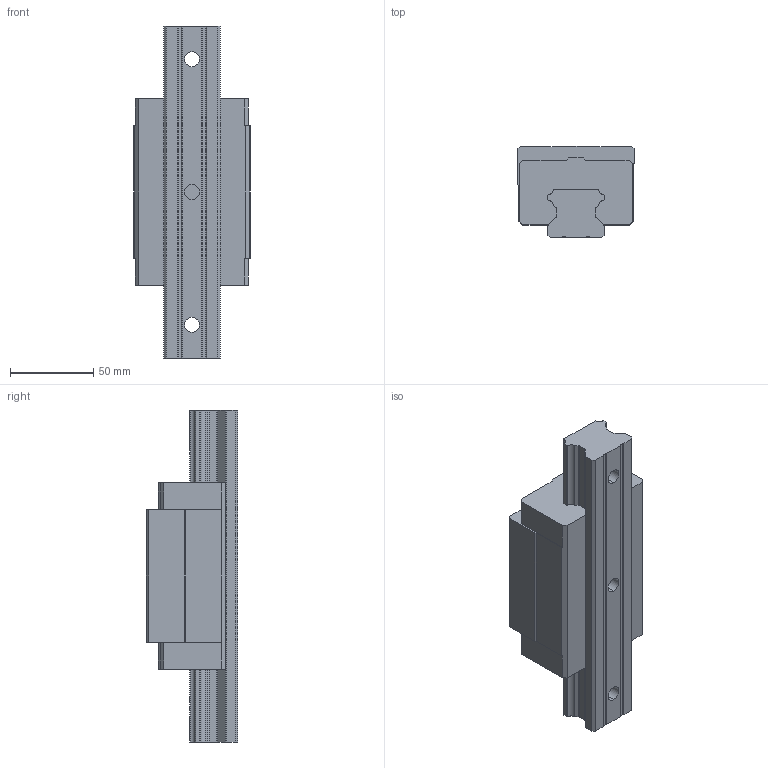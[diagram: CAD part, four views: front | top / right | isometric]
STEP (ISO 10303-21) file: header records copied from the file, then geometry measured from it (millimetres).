
FILE_DESCRIPTION (( 'STEP AP214' ), '1' );
FILE_NAME ('2.1020 Lineaarikelkka HGH35CA.STEP', '2025-09-19T06:27:05', ( '' ), ( '' ), 'SwSTEP 2.0', 'SolidWorks 2025', '' );
FILE_SCHEMA (( 'AUTOMOTIVE_DESIGN' ));
Length unit declared in the file: millimetre
Products named in the file (1): 2.1020 Lineaarikelkka HGH35CA
Bounding box: 70 x 55 x 200 mm (x, y, z)
Volume: 439730.6 mm3; surface area: 67717.4 mm2
Topology: 2 solids, 2 shells, 135 faces, 372 edges, 248 vertices
Faces by surface type: plane 97, cylinder 38
Entity records: 5811 total; most frequent: CARTESIAN_POINT 756, ORIENTED_EDGE 744, DIRECTION 720, EDGE_CURVE 372, VECTOR 296, LINE 296, VERTEX_POINT 248, AXIS2_PLACEMENT_3D 212
